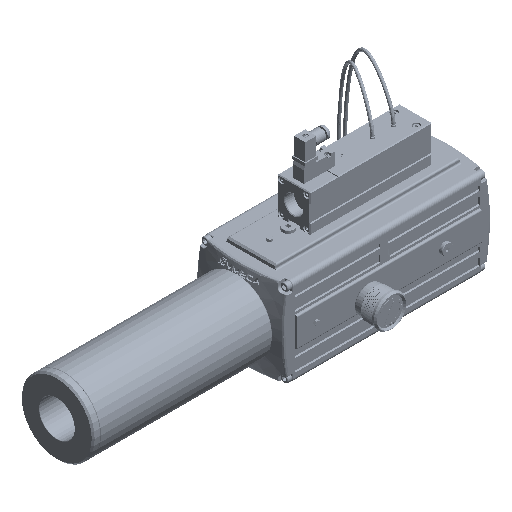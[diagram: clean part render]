
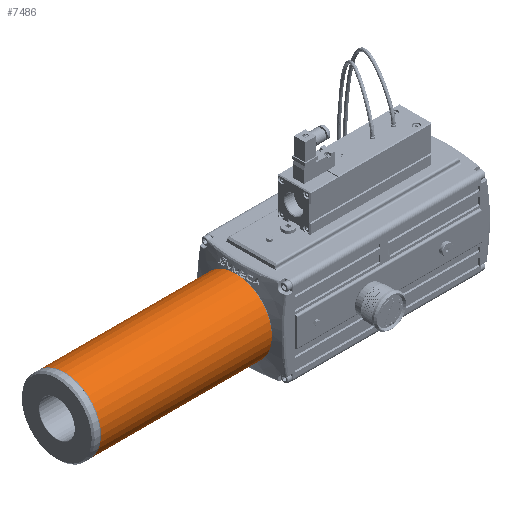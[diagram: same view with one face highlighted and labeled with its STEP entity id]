
A CAD part, isometric view. The second image highlights one B-rep face of the part: STEP entity #7486.
In plain terms, the highlighted cylindrical face has radius 49 mm (diameter 98 mm), a full revolution.
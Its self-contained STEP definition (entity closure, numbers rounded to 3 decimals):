
#7486 = ADVANCED_FACE( '', ( #16213, #16214 ), #16215, .T. );
#16213 = FACE_OUTER_BOUND( '', #28627, .T. );
#16214 = FACE_OUTER_BOUND( '', #28628, .T. );
#16215 = CYLINDRICAL_SURFACE( '', #28629, 49. );
#28627 = EDGE_LOOP( '', ( #51504 ) );
#28628 = EDGE_LOOP( '', ( #51505 ) );
#28629 = AXIS2_PLACEMENT_3D( '', #51506, #51507, #51508 );
#51504 = ORIENTED_EDGE( '', *, *, #61133, .T. );
#51505 = ORIENTED_EDGE( '', *, *, #64489, .F. );
#51506 = CARTESIAN_POINT( '', ( -126., 0., 0. ) );
#51507 = DIRECTION( '', ( 1., 0., 0. ) );
#51508 = DIRECTION( '', ( 0., 0., 1. ) );
#61133 = EDGE_CURVE( '', #72904, #72904, #72905, .T. );
#64489 = EDGE_CURVE( '', #77977, #77977, #77978, .T. );
#72904 = VERTEX_POINT( '', #93016 );
#72905 = CIRCLE( '', #93017, 49. );
#77977 = VERTEX_POINT( '', #105040 );
#77978 = CIRCLE( '', #105041, 49. );
#93016 = CARTESIAN_POINT( '', ( 105., 0., 49. ) );
#93017 = AXIS2_PLACEMENT_3D( '', #115800, #115801, #115802 );
#105040 = CARTESIAN_POINT( '', ( -125.5, 0., 49. ) );
#105041 = AXIS2_PLACEMENT_3D( '', #119406, #119407, #119408 );
#115800 = CARTESIAN_POINT( '', ( 105., 0., 0. ) );
#115801 = DIRECTION( '', ( -1., 0., 0. ) );
#115802 = DIRECTION( '', ( 0., 0., 1. ) );
#119406 = CARTESIAN_POINT( '', ( -125.5, 0., 0. ) );
#119407 = DIRECTION( '', ( -1., 0., 0. ) );
#119408 = DIRECTION( '', ( 0., 0., 1. ) );
